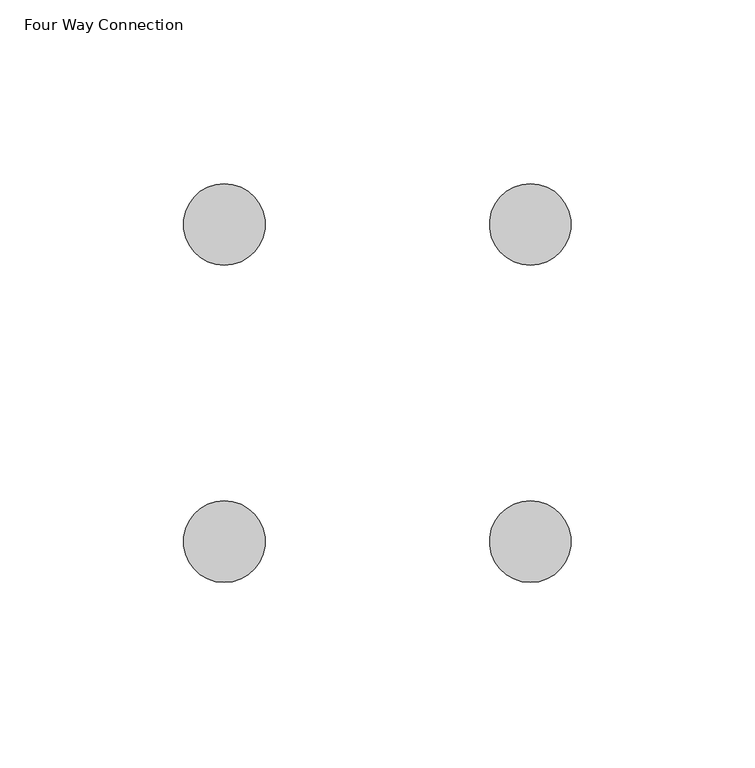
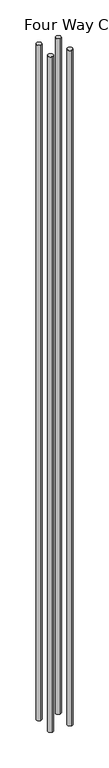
"""IFC4 building model written with IfcOpenShell, lengths in millimetres: proxy geometry, Connection-Teknion-Altos-Four_Way_FKC4 : Four Way Connection."""

from ifc_helpers import new_model, si_unit, point, frame_2d, origin, origin_with_axes, place, context, project, spatial, circle_curve, trimmed, segment, composite_curve, outline, extrude, source, transform, mapped, element, save


def four_way_connection_a5283016(model_context):
    return source(origin(), model_context, "Body", "SweptSolid", [
        extrude(outline(composite_curve([segment(trimmed(circle_curve(frame_2d((-41.6817447, 43.1864516)), 11.1125), [point((-41.6817447, 54.2989516))], [point((-41.6817447, 32.0739516))], False, "CARTESIAN"), True, "CONTINUOUS"), segment(trimmed(circle_curve(frame_2d((-41.6817447, 43.1864516)), 11.1125), [point((-41.6817447, 32.0739516))], [point((-41.6817447, 54.2989516))], False, "CARTESIAN"), True, "CONTINUOUS")], self_intersect=False)), origin_with_axes(), (0.0, 0.0, 1.0), 3048.0),
        extrude(outline(composite_curve([segment(trimmed(circle_curve(frame_2d((41.6942389, 43.1864516)), 11.1125), [point((41.6942389, 54.2989516))], [point((41.6942389, 32.0739516))], False, "CARTESIAN"), True, "CONTINUOUS"), segment(trimmed(circle_curve(frame_2d((41.6942389, 43.1864516)), 11.1125), [point((41.6942389, 32.0739516))], [point((41.6942389, 54.2989516))], False, "CARTESIAN"), True, "CONTINUOUS")], self_intersect=False)), origin_with_axes(), (0.0, 0.0, 1.0), 3048.0),
        extrude(outline(composite_curve([segment(trimmed(circle_curve(frame_2d((41.6942389, -43.1739649)), 11.1125), [point((41.6942389, -32.0614649))], [point((41.6942389, -54.2864649))], False, "CARTESIAN"), True, "CONTINUOUS"), segment(trimmed(circle_curve(frame_2d((41.6942389, -43.1739649)), 11.1125), [point((41.6942389, -54.2864649))], [point((41.6942389, -32.0614649))], False, "CARTESIAN"), True, "CONTINUOUS")], self_intersect=False)), origin_with_axes(), (0.0, 0.0, 1.0), 3048.0),
        extrude(outline(composite_curve([segment(trimmed(circle_curve(frame_2d((-41.6817447, -43.1739649)), 11.1125), [point((-41.6817447, -32.0614649))], [point((-41.6817447, -54.2864649))], False, "CARTESIAN"), True, "CONTINUOUS"), segment(trimmed(circle_curve(frame_2d((-41.6817447, -43.1739649)), 11.1125), [point((-41.6817447, -54.2864649))], [point((-41.6817447, -32.0614649))], False, "CARTESIAN"), True, "CONTINUOUS")], self_intersect=False)), origin_with_axes(), (0.0, 0.0, 1.0), 3048.0),
    ])


if __name__ == "__main__":
    model = new_model("IFC4")
    model_context = context("Model", 3, world=origin())
    ifc_project = project(units=[si_unit("LENGTHUNIT", "METRE", prefix="MILLI")], contexts=[model_context])
    site = spatial("IfcSite", under=ifc_project)
    building = spatial("IfcBuilding", under=site)
    placement = place(None, origin())
    four_way_connection_shape = four_way_connection_a5283016(model_context)
    element("IfcBuildingElementProxy", 1, Name="Connection-Teknion-Altos-Four_Way_FKC4 : Four Way Connection", ObjectType="Connection-Teknion-Altos-Four_Way_FKC4 : Four Way Connection", at=placement, inside=building, context=model_context, shape_type="MappedRepresentation", body=[
        mapped(four_way_connection_shape, transform((0.0, 0.0, 0.0), x_axis=(1.0, 0.0, 0.0), y_axis=(0.0, 1.0, 0.0), z_axis=(0.0, 0.0, 1.0))),
    ])
    save(model, "model.ifc")
